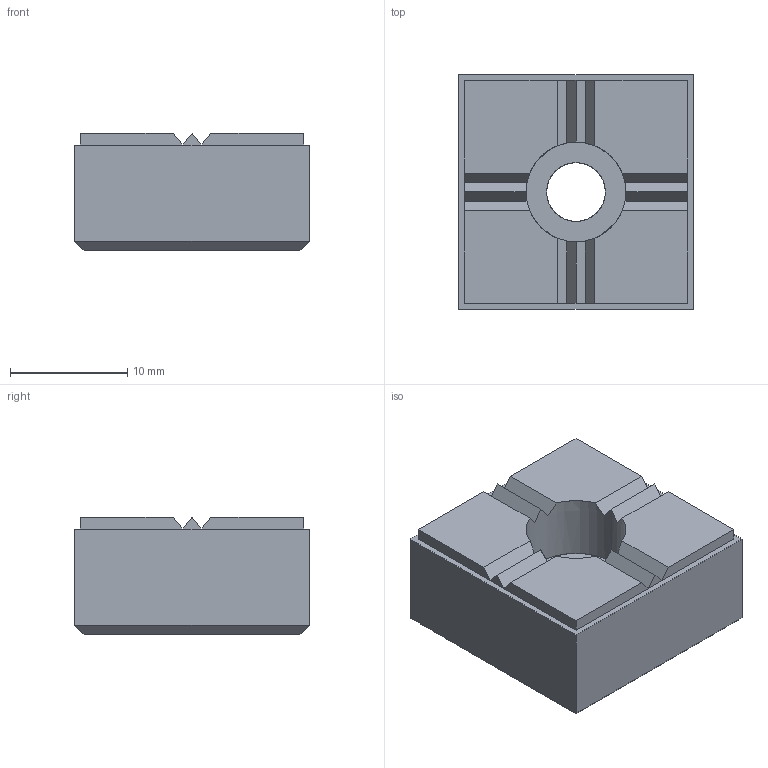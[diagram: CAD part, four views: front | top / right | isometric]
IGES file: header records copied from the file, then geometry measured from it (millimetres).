
Start section: SolidWorks IGES FILE using analytic representation for surfaces
Global section: file name: C:\WIX2\Positioning\3549\3549W003.igs; native system: SolidWorks 2003 by SolidWorks Corporation; preprocessor: Version 5.3; author: Joan; date: 030722.164423; units: millimetre
Bounding box: 20 x 20 x 10 mm (x, y, z)
Surface area: 1764 mm2 (no closed solid volume)
Topology: 0 solids, 0 shells, 47 faces, 330 edges, 330 vertices
Faces by surface type: bspline 43, revolution 4
